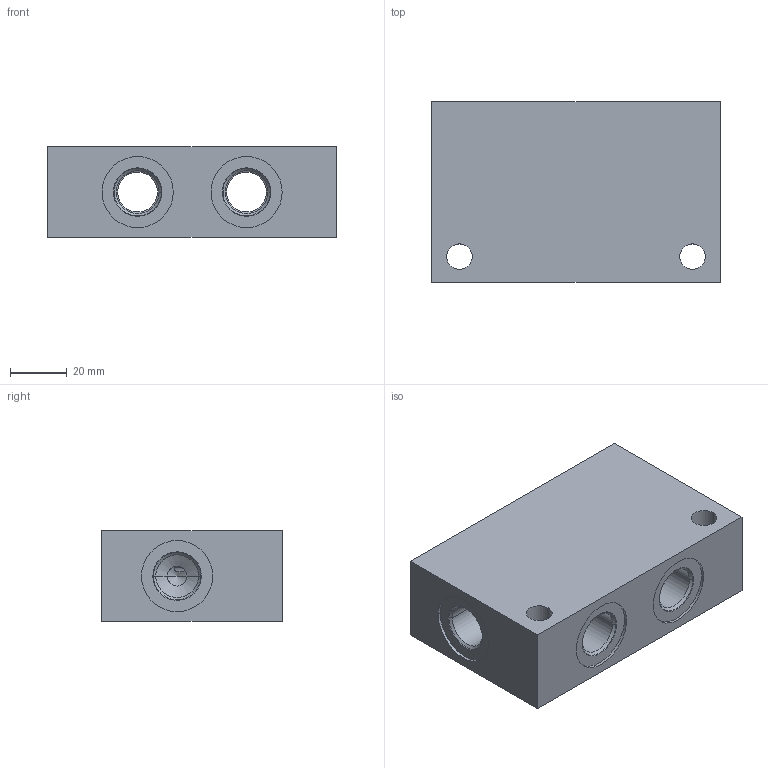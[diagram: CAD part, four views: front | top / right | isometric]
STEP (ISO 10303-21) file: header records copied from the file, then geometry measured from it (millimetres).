
FILE_DESCRIPTION((''),'2;1');
FILE_NAME('17236700','2023-10-12T',('l.soukupova'),(''),'PRO/ENGINEER BY PARAMETRIC TECHNOLOGY CORPORATION, 2015440','PRO/ENGINEER BY PARAMETRIC TECHNOLOGY CORPORATION, 2015440','');
FILE_SCHEMA(('AUTOMOTIVE_DESIGN { 1 0 10303 214 1 1 1 1 }'));
Length unit declared in the file: millimetre
Products named in the file (1): 17236700
Bounding box: 101.6 x 63.5 x 31.75 mm (x, y, z)
Volume: 163131.7 mm3; surface area: 36795.2 mm2
Topology: 1 solids, 7 shells, 126 faces, 460 edges, 385 vertices
Faces by surface type: cylinder 64, cone 44, plane 18
Entity records: 6044 total; most frequent: CARTESIAN_POINT 1523, DIRECTION 852, ORIENTED_EDGE 564, EDGE_CURVE 294, AXIS2_PLACEMENT_3D 289, VECTOR 274, LINE 274, PRESENTATION_STYLE_ASSIGNMENT 185
